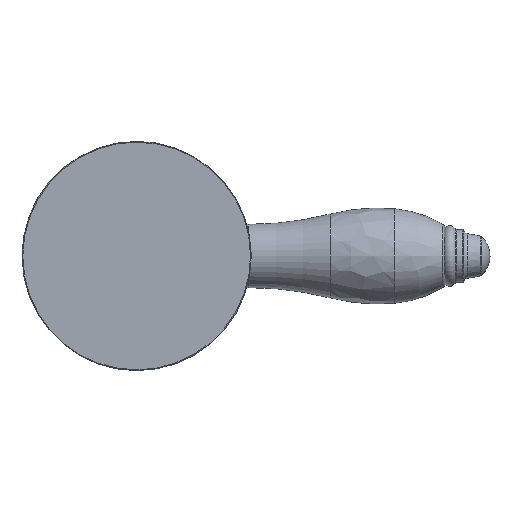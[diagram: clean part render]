
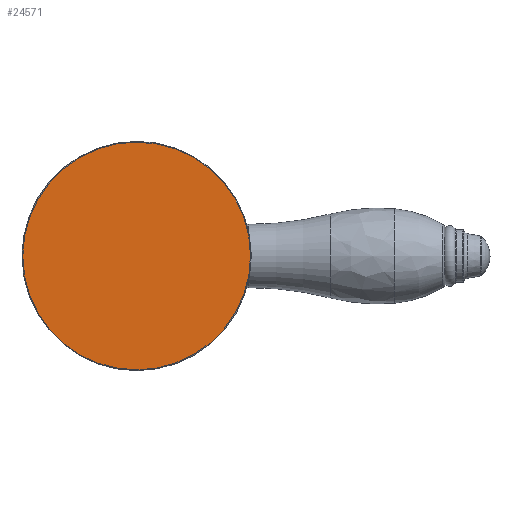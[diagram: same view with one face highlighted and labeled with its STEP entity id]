
A CAD part, left-side view. The second image highlights one B-rep face of the part: STEP entity #24571.
In plain terms, the highlighted planar face has unit normal (-1, 0, 0).
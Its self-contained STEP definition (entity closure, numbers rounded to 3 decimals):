
#10075=CARTESIAN_POINT('',(36.,0.,0.));
#10076=DIRECTION('',(-1.,0.,0.));
#10077=DIRECTION('',(0.,1.,-0.002));
#10078=AXIS2_PLACEMENT_3D('',#10075,#10076,#10077);
#10080=CARTESIAN_POINT('',(36.,0.,0.));
#10081=DIRECTION('',(-1.,0.,0.));
#10082=DIRECTION('',(0.,-1.,0.002));
#10083=AXIS2_PLACEMENT_3D('',#10080,#10081,#10082);
#10393=CARTESIAN_POINT('',(36.,29.65,-0.069));
#10394=CARTESIAN_POINT('',(36.,-29.65,0.069));
#10395=VERTEX_POINT('',#10393);
#10396=VERTEX_POINT('',#10394);
#24561=CARTESIAN_POINT('',(36.,0.,0.));
#24562=DIRECTION('',(-1.,0.,0.));
#24563=DIRECTION('',(0.,-1.,0.));
#24564=AXIS2_PLACEMENT_3D('',#24561,#24562,#24563);
#24565=PLANE('',#24564);
#24566=ORIENTED_EDGE('',*,*,#24551,.F.);
#24568=ORIENTED_EDGE('',*,*,#24567,.F.);
#24569=EDGE_LOOP('',(#24566,#24568));
#24570=FACE_OUTER_BOUND('',#24569,.F.);
#24571=ADVANCED_FACE('',(#24570),#24565,.T.);
#10079=CIRCLE('',#10078,29.65);
#10084=CIRCLE('',#10083,29.65);
#24551=EDGE_CURVE('',#10395,#10396,#10079,.T.);
#24567=EDGE_CURVE('',#10396,#10395,#10084,.T.);
